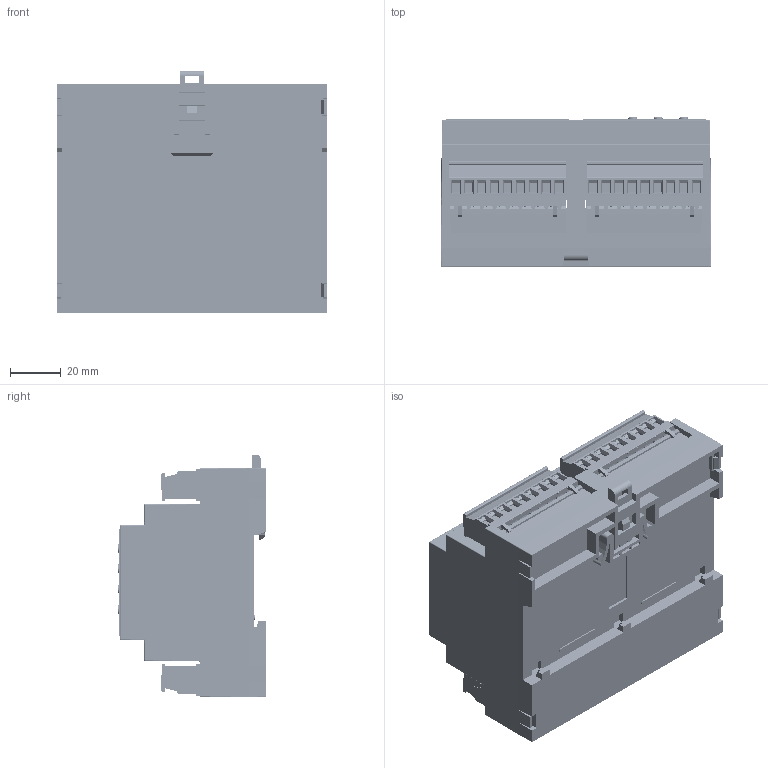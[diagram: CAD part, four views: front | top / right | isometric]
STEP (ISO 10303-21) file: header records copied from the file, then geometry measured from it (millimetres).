
FILE_DESCRIPTION (( 'STEP AP214' ), '1' );
FILE_NAME ('BRSP.421243.001_OPTI_D_SITE.STEP', '2024-05-22T15:56:03', ( 'd.a.glushkov' ), ( '' ), 'SwSTEP 2.0', 'SolidWorks 2022', '' );
FILE_SCHEMA (( 'AUTOMOTIVE_DESIGN' ));
Length unit declared in the file: millimetre
Products named in the file (75): ________________6x6x17.step; R6BRSP.758725.014.step; SB6BRSP.758725.014.step; 5901711776.step; Open CASCADE STEP translator 6.8 5.1.1.step; XT2BRSP.687253.001^BRSP.687253.001_BRSP.468332.019; BRSP468383.010; _______2EDGKA-5.08-09P^XT4BRSP.687253.001_BRSP.687253.001_BRSP.468332.019; BRSP.421243.001_OPTI_D_SITE; BRSP.758725.014.step; C2BRSP.758725.014.step; _______2EDGKA-5.08-09P^XT3BRSP.687253.001_BRSP.687253.001_BRSP.468332.019; BRSP.758724.002.step; _______2EDGKA-5.08-09P^XT2BRSP.687253.001_BRSP.687253.001_BRSP.468332.019; XS2BRSP.758725.014.step; Extruded-3.step; Extruded-1.step; BRSP.468383.011; R5BRSP.758725.014.step; D6MG; BoardBRSP.758724.002.step; U1BRSP.758724.002.step; BoardBRSP.687253.001^BRSP.687253.001_BRSP.468332.019; C7BRSP.758725.014.step; _______2EDGKA-5.08-09P^XT5BRSP.687253.001_BRSP.687253.001_BRSP.468332.019; Open CASCADE STEP translator 6.8 1.1.1^BoardBRSP.687253.001_BRSP.687253.001_BRSP.468332.019; XP1BRSP.758724.002.step; C5BRSP.758725.014.step; XT1BRSP.687253.001^BRSP.687253.001_BRSP.468332.019; 5901711936.step; ____________________3,2_1,5__^XT1BRSP.687253.001_BRSP.687253.001_BRSP.468332.019; C6BRSP.758725.014.step; Open CASCADE STEP translator 6.8 6.1.1.step; R1BRSP.758725.014.step; _______2EDGV-5.08-09P^XT4BRSP.687253.001_BRSP.687253.001_BRSP.468332.019; SB4BRSP.758725.014.step; User_Library-PLS-6-1.step; SB1BRSP.758725.014.step; R3BRSP.758725.014.step; Extruded-0.step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
Assembly tree (90 placements, depth 6):
  BRSP.421243.001_OPTI_D_SITE
    D6MG
    BRSP.468332.019
      BRSP.687253.001^BRSP.468332.019
        BoardBRSP.687253.001^BRSP.687253.001_BRSP.468332.019
          Open CASCADE STEP translator 6.8 1.1.1^BoardBRSP.687253.001_BRSP.687253.001_BRSP.468332.019
        XT5BRSP.687253.001^BRSP.687253.001_BRSP.468332.019
          _______2EDGKA-5.08-09P^XT5BRSP.687253.001_BRSP.687253.001_BRSP.468332.019
          _______2EDGV-5.08-09P^XT5BRSP.687253.001_BRSP.687253.001_BRSP.468332.019
        XT4BRSP.687253.001^BRSP.687253.001_BRSP.468332.019
          _______2EDGKA-5.08-09P^XT4BRSP.687253.001_BRSP.687253.001_BRSP.468332.019
          _______2EDGV-5.08-09P^XT4BRSP.687253.001_BRSP.687253.001_BRSP.468332.019
        XT3BRSP.687253.001^BRSP.687253.001_BRSP.468332.019
          _______2EDGKA-5.08-09P^XT3BRSP.687253.001_BRSP.687253.001_BRSP.468332.019
          _______2EDGV-5.08-09P^XT3BRSP.687253.001_BRSP.687253.001_BRSP.468332.019
        XT2BRSP.687253.001^BRSP.687253.001_BRSP.468332.019
          _______2EDGKA-5.08-09P^XT2BRSP.687253.001_BRSP.687253.001_BRSP.468332.019
          _______2EDGV-5.08-09P^XT2BRSP.687253.001_BRSP.687253.001_BRSP.468332.019
        XT1BRSP.687253.001^BRSP.687253.001_BRSP.468332.019
          ____________________3,2_1,5__^XT1BRSP.687253.001_BRSP.687253.001_BRSP.468332.019
    BRSP468383.010
      BRSP.758725.014.step
        BoardBRSP.758725.014.step
          Open CASCADE STEP translator 6.8 6.1.1.step
        XS3BRSP.758725.014.step
          PBS-06.step
        XS2BRSP.758725.014.step
          PBS-06.step
        SB6BRSP.758725.014.step
          ________________6x6x17.step
        SB5BRSP.758725.014.step
          ________________6x6x17.step
        SB4BRSP.758725.014.step
          ________________6x6x17.step
        SB3BRSP.758725.014.step
          ________________6x6x17.step
        SB2BRSP.758725.014.step
          ________________6x6x17.step
        SB1BRSP.758725.014.step
          ________________6x6x17.step
        R6BRSP.758725.014.step
          User_Library-0603_SMD_Resistor.step
        R5BRSP.758725.014.step
          User_Library-0603_SMD_Resistor.step
        R4BRSP.758725.014.step
          User_Library-0603_SMD_Resistor.step
        R3BRSP.758725.014.step
          User_Library-0603_SMD_Resistor.step
        R2BRSP.758725.014.step
          User_Library-0603_SMD_Resistor.step
        R1BRSP.758725.014.step
          User_Library-0603_SMD_Resistor.step
        C10BRSP.758725.014.step
          ____________0603.step
        C9BRSP.758725.014.step
          ____________0603.step
        C8BRSP.758725.014.step
          ____________0603.step
        C7BRSP.758725.014.step
          ____________0603.step
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Bounding box: 106.25 x 58.46 x 95.36 mm (x, y, z)
Volume: 137984.1 mm3; surface area: 156173.9 mm2
Topology: 56 solids, 56 shells, 8651 faces, 22613 edges, 14272 vertices
Faces by surface type: plane 5296, cylinder 2059, sphere 360, cone 344, bspline 328, torus 264
Entity records: 244389 total; most frequent: CARTESIAN_POINT 56109, ORIENTED_EDGE 38596, DIRECTION 36405, EDGE_CURVE 19298, VECTOR 13351, LINE 13351, VERTEX_POINT 12386, AXIS2_PLACEMENT_3D 11527
